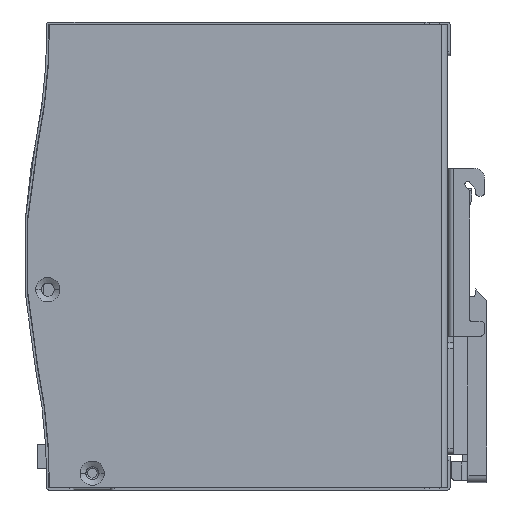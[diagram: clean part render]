
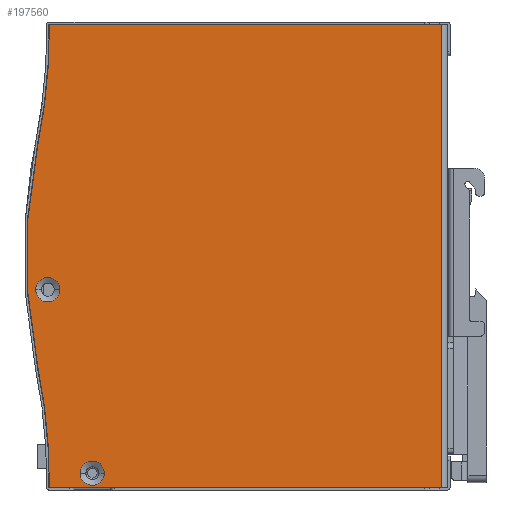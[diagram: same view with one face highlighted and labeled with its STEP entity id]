
A CAD part, front view. The second image highlights one B-rep face of the part: STEP entity #197560.
In plain terms, the highlighted planar face has unit normal (0, -1, 0).
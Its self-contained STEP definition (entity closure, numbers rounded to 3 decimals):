
#195980=CARTESIAN_POINT('',(1762.785,14.486,
9046.641));
#195990=DIRECTION('',(0.,-1.,0.));
#196000=DIRECTION('',(1.,0.,0.));
#196010=AXIS2_PLACEMENT_3D('',#195980,#195990,#196000);
#196020=CIRCLE('',#196010,0.5);
#196030=CARTESIAN_POINT('',(1763.285,14.486,
9046.641));
#196040=VERTEX_POINT('',#196030);
#196050=CARTESIAN_POINT('',(1762.785,14.486,
9047.141));
#196060=VERTEX_POINT('',#196050);
#196070=EDGE_CURVE('',#196040,#196060,#196020,.T.);
#196530=CARTESIAN_POINT('',(1766.311,14.486,
9015.151));
#196540=VERTEX_POINT('',#196530);
#196570=CARTESIAN_POINT('',(1913.278,14.486,
9045.16));
#196580=DIRECTION('',(0.,1.,0.));
#196590=DIRECTION('',(-0.98,0.,
-0.2));
#196600=AXIS2_PLACEMENT_3D('',#196570,#196580,#196590);
#196610=CIRCLE('',#196600,150.);
#196620=EDGE_CURVE('',#196540,#196040,#196610,.T.);
#196680=CARTESIAN_POINT('',(1768.013,14.486,
8997.141));
#196690=DIRECTION('',(0.,-1.,0.));
#196700=DIRECTION('',(1.,0.,0.));
#196710=AXIS2_PLACEMENT_3D('',#196680,#196690,#196700);
#196720=PLANE('',#196710);
#196730=CARTESIAN_POINT('',(1763.693,14.486,
8994.141));
#196740=DIRECTION('',(0.,1.,0.));
#196750=DIRECTION('',(-1.,0.,0.));
#196760=AXIS2_PLACEMENT_3D('',#196730,#196740,#196750);
#196770=CIRCLE('',#196760,3.25);
#196780=CARTESIAN_POINT('',(1766.943,14.486,
8994.141));
#196790=VERTEX_POINT('',#196780);
#196800=CARTESIAN_POINT('',(1760.443,14.486,
8994.141));
#196810=VERTEX_POINT('',#196800);
#196820=EDGE_CURVE('',#196790,#196810,#196770,.T.);
#196830=ORIENTED_EDGE('',*,*,#196820,.T.);
#196840=EDGE_CURVE('',#196810,#196790,#196770,.T.);
#196850=ORIENTED_EDGE('',*,*,#196840,.T.);
#196860=EDGE_LOOP('',(#196850,#196830));
#196870=FACE_BOUND('',#196860,.T.);
#196880=CARTESIAN_POINT('',(1751.793,14.486,
9043.241));
#196890=DIRECTION('',(0.,1.,0.));
#196900=DIRECTION('',(-1.,0.,0.));
#196910=AXIS2_PLACEMENT_3D('',#196880,#196890,#196900);
#196920=CIRCLE('',#196910,3.25);
#196930=CARTESIAN_POINT('',(1748.543,14.486,
9043.241));
#196940=VERTEX_POINT('',#196930);
#196950=CARTESIAN_POINT('',(1755.043,14.486,
9043.241));
#196960=VERTEX_POINT('',#196950);
#196970=EDGE_CURVE('',#196940,#196960,#196920,.T.);
#196980=ORIENTED_EDGE('',*,*,#196970,.T.);
#196990=EDGE_CURVE('',#196960,#196940,#196920,.T.);
#197000=ORIENTED_EDGE('',*,*,#196990,.T.);
#197010=EDGE_LOOP('',(#197000,#196980));
#197020=FACE_BOUND('',#197010,.T.);
#197030=CARTESIAN_POINT('',(1658.393,14.486,8923.141))
;
#197040=DIRECTION('',(0.,0.,1.));
#197050=VECTOR('',#197040,1.);
#197060=LINE('',#197030,#197050);
#197070=CARTESIAN_POINT('',(1658.393,14.486,
8923.141));
#197080=VERTEX_POINT('',#197070);
#197090=CARTESIAN_POINT('',(1658.393,14.486,
9047.141));
#197100=VERTEX_POINT('',#197090);
#197110=EDGE_CURVE('',#197080,#197100,#197060,.T.);
#197120=ORIENTED_EDGE('',*,*,#197110,.F.);
#197130=CARTESIAN_POINT('',(1757.793,14.486,
9047.141));
#197140=DIRECTION('',(-1.,0.,0.));
#197150=VECTOR('',#197140,1.);
#197160=LINE('',#197130,#197150);
#197170=EDGE_CURVE('',#196060,#197100,#197160,.T.);
#197180=ORIENTED_EDGE('',*,*,#197170,.T.);
#197190=ORIENTED_EDGE('',*,*,#196070,.T.);
#197200=ORIENTED_EDGE('',*,*,#196620,.T.);
#197210=CARTESIAN_POINT('',(1619.343,14.486,
8985.141));
#197220=DIRECTION('',(0.,-1.,0.));
#197230=DIRECTION('',(0.98,0.,
-0.2));
#197240=AXIS2_PLACEMENT_3D('',#197210,#197220,#197230);
#197250=CIRCLE('',#197240,150.);
#197260=CARTESIAN_POINT('',(1766.311,14.486,
8955.131));
#197270=VERTEX_POINT('',#197260);
#197280=EDGE_CURVE('',#197270,#196540,#197250,.T.);
#197290=ORIENTED_EDGE('',*,*,#197280,.T.);
#197300=CARTESIAN_POINT('',(1913.278,14.486,
8925.122));
#197310=DIRECTION('',(0.,1.,0.));
#197320=DIRECTION('',(-1.,0.,
-0.01));
#197330=AXIS2_PLACEMENT_3D('',#197300,#197310,#197320);
#197340=CIRCLE('',#197330,150.);
#197350=CARTESIAN_POINT('',(1763.285,14.486,
8923.643));
#197360=VERTEX_POINT('',#197350);
#197370=EDGE_CURVE('',#197360,#197270,#197340,.T.);
#197380=ORIENTED_EDGE('',*,*,#197370,.T.);
#197390=CARTESIAN_POINT('',(1762.785,14.486,
8923.641));
#197400=DIRECTION('',(0.,-1.,0.));
#197410=DIRECTION('',(0.,0.,
-1.));
#197420=AXIS2_PLACEMENT_3D('',#197390,#197400,#197410);
#197430=CIRCLE('',#197420,0.5);
#197440=CARTESIAN_POINT('',(1762.785,14.486,
8923.141));
#197450=VERTEX_POINT('',#197440);
#197460=EDGE_CURVE('',#197450,#197360,#197430,.T.);
#197470=ORIENTED_EDGE('',*,*,#197460,.T.);
#197480=CARTESIAN_POINT('',(1662.86,14.486,
8923.141));
#197490=DIRECTION('',(-1.,0.,0.));
#197500=VECTOR('',#197490,1.);
#197510=LINE('',#197480,#197500);
#197520=EDGE_CURVE('',#197450,#197080,#197510,.T.);
#197530=ORIENTED_EDGE('',*,*,#197520,.F.);
#197540=EDGE_LOOP('',(#197530,#197470,#197380,#197290,#197200,#197190,
#197180,#197120));
#197550=FACE_OUTER_BOUND('',#197540,.T.);
#197560=ADVANCED_FACE('',(#196870,#197020,#197550),#196720,.T.);
